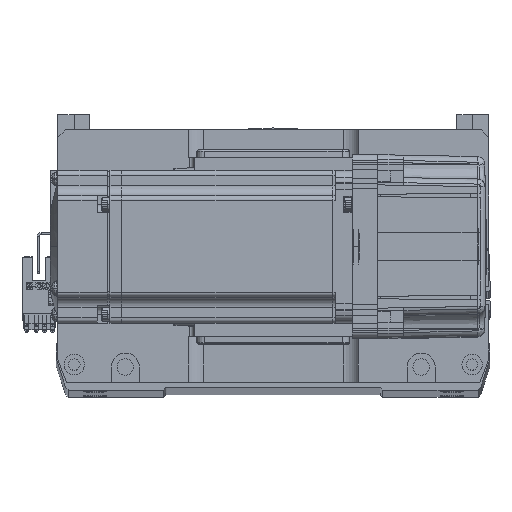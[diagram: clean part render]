
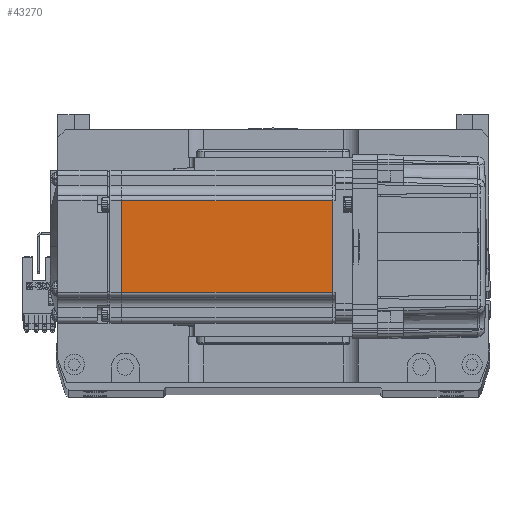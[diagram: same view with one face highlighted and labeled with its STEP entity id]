
A CAD part, top view. The second image highlights one B-rep face of the part: STEP entity #43270.
In plain terms, the highlighted planar face has unit normal (0, 0, 1).
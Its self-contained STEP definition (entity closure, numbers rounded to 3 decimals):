
#275 = LINE ( 'NONE', #45725, #52358 ) ;
#1014 = DIRECTION ( 'NONE',  ( -1., 0., 0. ) ) ;
#1683 = EDGE_CURVE ( 'NONE', #40491, #4781, #275, .T. ) ;
#4781 = VERTEX_POINT ( 'NONE', #46792 ) ;
#5609 = DIRECTION ( 'NONE',  ( 0., -1., 0. ) ) ;
#10139 = FACE_OUTER_BOUND ( 'NONE', #14205, .T. ) ;
#10504 = CARTESIAN_POINT ( 'NONE',  ( -7.75, 0., 30. ) ) ;
#12305 = VECTOR ( 'NONE', #5609, 1000. ) ;
#14205 = EDGE_LOOP ( 'NONE', ( #26439, #23575, #39779, #49364 ) ) ;
#14386 = CARTESIAN_POINT ( 'NONE',  ( -6.5, 18., 30. ) ) ;
#16435 = EDGE_CURVE ( 'NONE', #59627, #57361, #55707, .T. ) ;
#21054 = EDGE_CURVE ( 'NONE', #57361, #4781, #47916, .T. ) ;
#23575 = ORIENTED_EDGE ( 'NONE', *, *, #64326, .T. ) ;
#24792 = PLANE ( 'NONE',  #52025 ) ;
#25885 = DIRECTION ( 'NONE',  ( 0., -1., 0. ) ) ;
#26439 = ORIENTED_EDGE ( 'NONE', *, *, #16435, .F. ) ;
#39779 = ORIENTED_EDGE ( 'NONE', *, *, #1683, .T. ) ;
#40491 = VERTEX_POINT ( 'NONE', #64831 ) ;
#41763 = CARTESIAN_POINT ( 'NONE',  ( -6.5, -18., 30. ) ) ;
#43270 = ADVANCED_FACE ( 'NONE', ( #10139 ), #24792, .T. ) ;
#44170 = CARTESIAN_POINT ( 'NONE',  ( -6.5, -25., 30. ) ) ;
#45239 = VECTOR ( 'NONE', #48941, 1000. ) ;
#45725 = CARTESIAN_POINT ( 'NONE',  ( -90.45, 0., 30. ) ) ;
#46792 = CARTESIAN_POINT ( 'NONE',  ( -90.45, -18., 30. ) ) ;
#47916 = LINE ( 'NONE', #41763, #62947 ) ;
#48941 = DIRECTION ( 'NONE',  ( -1., 0., 0. ) ) ;
#49246 = DIRECTION ( 'NONE',  ( 0., 0., 1. ) ) ;
#49364 = ORIENTED_EDGE ( 'NONE', *, *, #21054, .F. ) ;
#52025 = AXIS2_PLACEMENT_3D ( 'NONE', #44170, #49246, #54819 ) ;
#52358 = VECTOR ( 'NONE', #25885, 1000. ) ;
#54819 = DIRECTION ( 'NONE',  ( 1., 0., 0. ) ) ;
#55707 = LINE ( 'NONE', #10504, #12305 ) ;
#57361 = VERTEX_POINT ( 'NONE', #63534 ) ;
#58682 = LINE ( 'NONE', #14386, #45239 ) ;
#59627 = VERTEX_POINT ( 'NONE', #63548 ) ;
#62947 = VECTOR ( 'NONE', #1014, 1000. ) ;
#63534 = CARTESIAN_POINT ( 'NONE',  ( -7.75, -18., 30. ) ) ;
#63548 = CARTESIAN_POINT ( 'NONE',  ( -7.75, 18., 30. ) ) ;
#64326 = EDGE_CURVE ( 'NONE', #59627, #40491, #58682, .T. ) ;
#64831 = CARTESIAN_POINT ( 'NONE',  ( -90.45, 18., 30. ) ) ;
